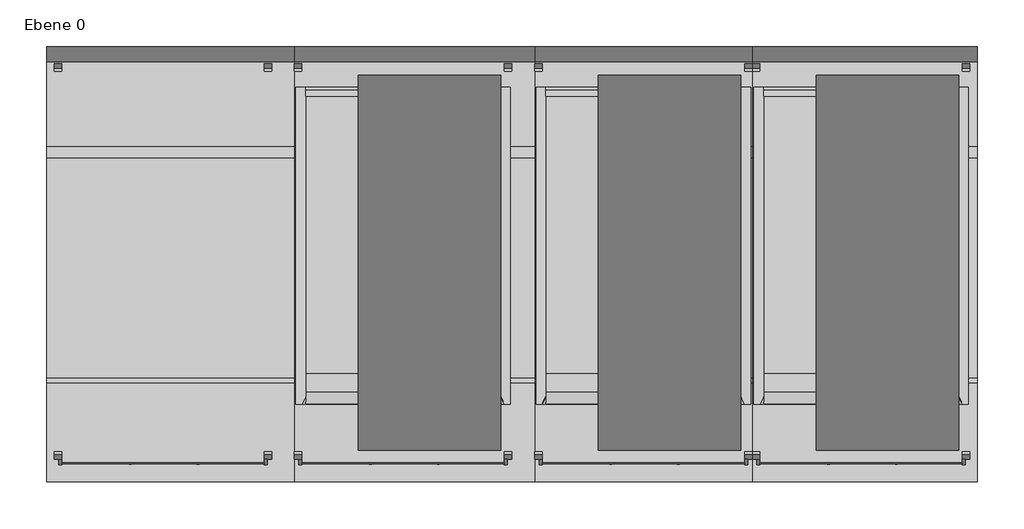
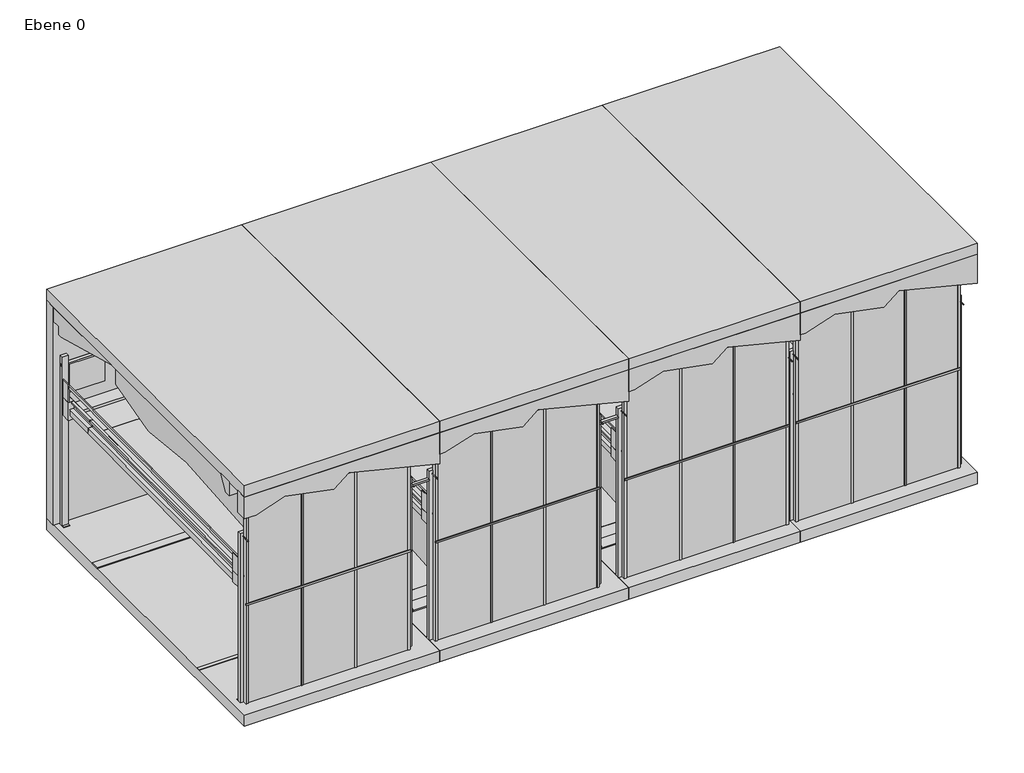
# One storey: 4 proxies.
"""IFC4 building model written with IfcOpenShell, lengths in millimetres."""

from ifc_helpers import new_model, si_unit, origin, place, context, project, spatial, transform, mapped, element, save
from components import generic_models_ba3884c7, generic_models_abb25ee0, generic_models_32a2c880, generic_models_86916ad0

model = new_model("IFC4")

# Units and contexts
model_context = context("Model", 3, world=origin())
ifc_project = project(units=[si_unit("LENGTHUNIT", "METRE", prefix="MILLI")], contexts=[model_context])

# Site, building, storey
site = spatial("IfcSite", under=ifc_project)
building = spatial("IfcBuilding", under=site)
storey = spatial("IfcBuildingStorey", under=building, Name="Ebene 0", Elevation=0.0)

# Proxies
placement = place(None, origin())
generic_models_shape = generic_models_ba3884c7(model_context)
element("IfcBuildingElementProxy", 1, Name="TrendVario 6200+ : TrendVario 6200+", ObjectType="TrendVario 6200+ : TrendVario 6200+", at=placement, inside=storey, context=model_context, shape_type="MappedRepresentation", body=[
    mapped(generic_models_shape, transform((-515.5658296, -2190.836259, 0.0), x_axis=(1.0, 0.0, 0.0), y_axis=(0.0, 1.0, 0.0), z_axis=(0.0, 0.0, 1.0))),
])
generic_models_2_shape = generic_models_abb25ee0(model_context)
element("IfcBuildingElementProxy", 2, Name="TrendVario 6200+ : TrendVario 6200+", ObjectType="TrendVario 6200+ : TrendVario 6200+", at=placement, inside=storey, context=model_context, shape_type="MappedRepresentation", body=[
    mapped(generic_models_2_shape, transform((2684.4341704, -2190.836259, 0.0), x_axis=(1.0, 0.0, 0.0), y_axis=(0.0, 1.0, 0.0), z_axis=(0.0, 0.0, 1.0))),
])
generic_models_3_shape = generic_models_32a2c880(model_context)
element("IfcBuildingElementProxy", 3, Name="TrendVario 6200+ : TrendVario 6200+", ObjectType="TrendVario 6200+ : TrendVario 6200+", at=placement, inside=storey, context=model_context, shape_type="MappedRepresentation", body=[
    mapped(generic_models_3_shape, transform((5885.4341704, -2190.836259, 0.0), x_axis=(1.0, 0.0, 0.0), y_axis=(0.0, 1.0, 0.0), z_axis=(0.0, 0.0, 1.0))),
])
generic_models_4_shape = generic_models_86916ad0(model_context)
element("IfcBuildingElementProxy", 4, Name="TrendVario 6200+ : TrendVario 6200+", ObjectType="TrendVario 6200+ : TrendVario 6200+", at=placement, inside=storey, context=model_context, shape_type="MappedRepresentation", body=[
    mapped(generic_models_4_shape, transform((8786.4341704, -2190.836259, 0.0), x_axis=(1.0, 0.0, 0.0), y_axis=(0.0, 1.0, 0.0), z_axis=(0.0, 0.0, 1.0))),
])

save(model, "model.ifc")
